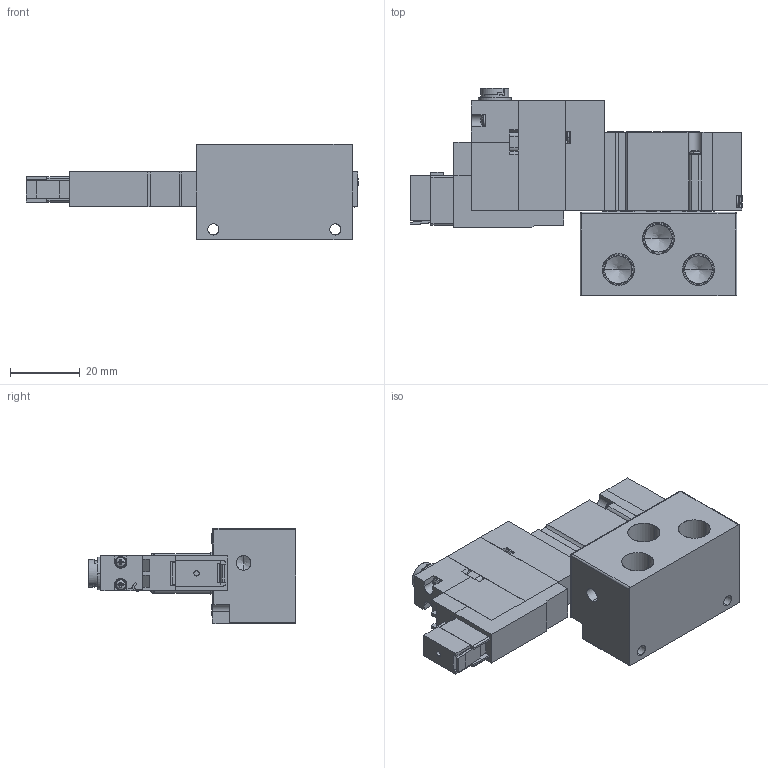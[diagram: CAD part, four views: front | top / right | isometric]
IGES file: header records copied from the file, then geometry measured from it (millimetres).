
Start section: SolidWorks IGES file using analytic representation for surfaces
Global section: file name: D:\Custom\3D繪製\ADEX\A05G\A05GS25-#-#-#-E.IGS,1; native system: 5HSolidWorks 2014; preprocessor: SolidWorks 2014; author: Chieh_Lu; date: 150809.151535; units: millimetre
Bounding box: 95.3 x 59.6 x 27.5 mm (x, y, z)
Surface area: 22520.5 mm2 (no closed solid volume)
Topology: 0 solids, 0 shells, 902 faces, 7386 edges, 7354 vertices
Faces by surface type: bspline 619, revolution 283
